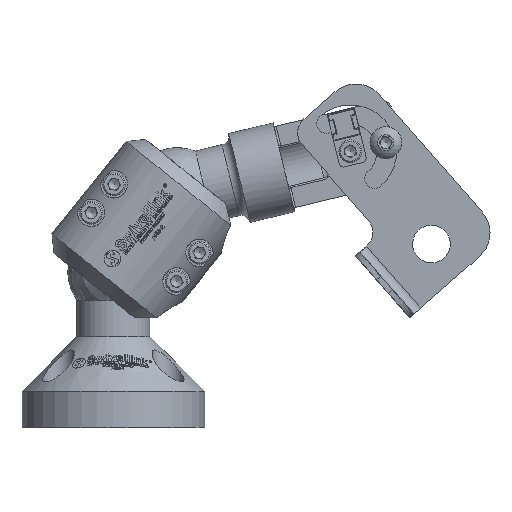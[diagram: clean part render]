
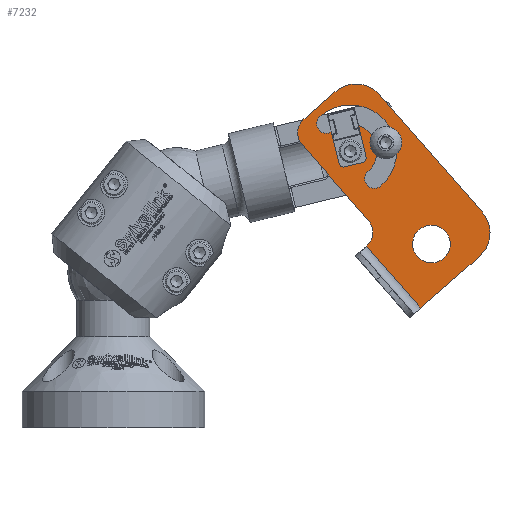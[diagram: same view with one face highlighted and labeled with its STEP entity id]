
A CAD part, front view. The second image highlights one B-rep face of the part: STEP entity #7232.
In plain terms, the highlighted planar face has unit normal (0, -1, 0).
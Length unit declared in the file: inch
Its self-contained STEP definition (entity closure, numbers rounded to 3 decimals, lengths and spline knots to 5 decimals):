
#247 = LINE ( 'NONE', #4669, #29322 ) ;
#412 = DIRECTION ( 'NONE',  ( 1., 0., 0. ) ) ;
#1035 = AXIS2_PLACEMENT_3D ( 'NONE', #45776, #28016, #36355 ) ;
#1137 = VERTEX_POINT ( 'NONE', #54085 ) ;
#1555 = EDGE_CURVE ( 'NONE', #3023, #53710, #51739, .T. ) ;
#1736 = CARTESIAN_POINT ( 'NONE',  ( 0., -0.0747, -1.0625 ) ) ;
#1989 = EDGE_CURVE ( 'NONE', #28999, #13340, #37203, .T. ) ;
#3023 = VERTEX_POINT ( 'NONE', #6251 ) ;
#3126 = AXIS2_PLACEMENT_3D ( 'NONE', #20386, #37058, #16759 ) ;
#3427 = AXIS2_PLACEMENT_3D ( 'NONE', #30501, #9106, #4394 ) ;
#3535 = DIRECTION ( 'NONE',  ( 0., -1., 0. ) ) ;
#3604 = EDGE_CURVE ( 'NONE', #47286, #11667, #24968, .T. ) ;
#3980 = AXIS2_PLACEMENT_3D ( 'NONE', #28857, #19711, #41642 ) ;
#4394 = DIRECTION ( 'NONE',  ( 0., 0., -1. ) ) ;
#4669 = CARTESIAN_POINT ( 'NONE',  ( 3., -0.0747, 0. ) ) ;
#5817 = CIRCLE ( 'NONE', #49305, 0.14063 ) ;
#6251 = CARTESIAN_POINT ( 'NONE',  ( 2.5625, -0.0747, -1.5 ) ) ;
#6609 = FACE_BOUND ( 'NONE', #30443, .T. ) ;
#7232 = ADVANCED_FACE ( 'NONE', ( #20233, #53596, #6609, #11615 ), #28832, .T. ) ;
#7633 = VECTOR ( 'NONE', #37227, 39.37008 ) ;
#8325 = CIRCLE ( 'NONE', #8371, 0.367 ) ;
#8371 = AXIS2_PLACEMENT_3D ( 'NONE', #13968, #17307, #34808 ) ;
#8832 = ORIENTED_EDGE ( 'NONE', *, *, #13481, .T. ) ;
#9106 = DIRECTION ( 'NONE',  ( 0., -1., 0. ) ) ;
#9329 = ORIENTED_EDGE ( 'NONE', *, *, #46815, .F. ) ;
#9371 = CARTESIAN_POINT ( 'NONE',  ( 0.5625, -0.0747, -0.94532 ) ) ;
#9482 = CIRCLE ( 'NONE', #13034, 0.25 ) ;
#10332 = DIRECTION ( 'NONE',  ( 0., -1., 0. ) ) ;
#11172 = CARTESIAN_POINT ( 'NONE',  ( 2.25, -0.0747, -0.6875 ) ) ;
#11615 = FACE_BOUND ( 'NONE', #44402, .T. ) ;
#11667 = VERTEX_POINT ( 'NONE', #29963 ) ;
#11922 = DIRECTION ( 'NONE',  ( 0., 0., -1. ) ) ;
#12549 = CARTESIAN_POINT ( 'NONE',  ( 1.883, -0.0747, -0.6875 ) ) ;
#12942 = CARTESIAN_POINT ( 'NONE',  ( 2.617, -0.0747, -0.6875 ) ) ;
#13030 = CARTESIAN_POINT ( 'NONE',  ( 2.25, -0.0747, -0.6875 ) ) ;
#13034 = AXIS2_PLACEMENT_3D ( 'NONE', #16108, #20541, #11922 ) ;
#13075 = CIRCLE ( 'NONE', #54770, 0.25 ) ;
#13340 = VERTEX_POINT ( 'NONE', #54819 ) ;
#13481 = EDGE_CURVE ( 'NONE', #3023, #25122, #38530, .T. ) ;
#13968 = CARTESIAN_POINT ( 'NONE',  ( 2.25, -0.0747, -0.6875 ) ) ;
#14259 = ORIENTED_EDGE ( 'NONE', *, *, #1555, .F. ) ;
#14292 = ORIENTED_EDGE ( 'NONE', *, *, #30463, .F. ) ;
#14310 = EDGE_CURVE ( 'NONE', #13340, #26052, #24396, .T. ) ;
#14517 = VERTEX_POINT ( 'NONE', #1736 ) ;
#14591 = CARTESIAN_POINT ( 'NONE',  ( 0., -0.0747, 0. ) ) ;
#14938 = EDGE_CURVE ( 'NONE', #14517, #53710, #23488, .T. ) ;
#15057 = ORIENTED_EDGE ( 'NONE', *, *, #3604, .F. ) ;
#15169 = CARTESIAN_POINT ( 'NONE',  ( 0., -0.0747, 0. ) ) ;
#15968 = ORIENTED_EDGE ( 'NONE', *, *, #33538, .F. ) ;
#16108 = CARTESIAN_POINT ( 'NONE',  ( 1.375, -0.0747, 0. ) ) ;
#16144 = EDGE_CURVE ( 'NONE', #26052, #21035, #8325, .T. ) ;
#16759 = DIRECTION ( 'NONE',  ( 0., 0., -1. ) ) ;
#17307 = DIRECTION ( 'NONE',  ( 0., 1., 0. ) ) ;
#17852 = CARTESIAN_POINT ( 'NONE',  ( 2.5625, -0.0747, -1.0625 ) ) ;
#18028 = CARTESIAN_POINT ( 'NONE',  ( 2.75, -0.0747, -0.25 ) ) ;
#19711 = DIRECTION ( 'NONE',  ( 0., -1., 0. ) ) ;
#19922 = DIRECTION ( 'NONE',  ( 0., 0., -1. ) ) ;
#20233 = FACE_OUTER_BOUND ( 'NONE', #32603, .T. ) ;
#20386 = CARTESIAN_POINT ( 'NONE',  ( 2.75, -0.0747, -0.6875 ) ) ;
#20541 = DIRECTION ( 'NONE',  ( 0., 1., 0. ) ) ;
#21035 = VERTEX_POINT ( 'NONE', #12549 ) ;
#22162 = EDGE_CURVE ( 'NONE', #31102, #22738, #25106, .T. ) ;
#22726 = EDGE_CURVE ( 'NONE', #21035, #28999, #34359, .T. ) ;
#22738 = VERTEX_POINT ( 'NONE', #18028 ) ;
#23488 = CIRCLE ( 'NONE', #3980, 0.4375 ) ;
#23730 = CARTESIAN_POINT ( 'NONE',  ( 3., -0.0747, -1.0625 ) ) ;
#23806 = CIRCLE ( 'NONE', #3427, 0.25781 ) ;
#24111 = CARTESIAN_POINT ( 'NONE',  ( 0.4375, -0.0747, -1.5 ) ) ;
#24354 = CARTESIAN_POINT ( 'NONE',  ( 2.75, -0.0747, -0.5 ) ) ;
#24396 = CIRCLE ( 'NONE', #3126, 0.133 ) ;
#24516 = EDGE_CURVE ( 'NONE', #34923, #34923, #23806, .T. ) ;
#24570 = CARTESIAN_POINT ( 'NONE',  ( 1.125, -0.0747, -0.25 ) ) ;
#24968 = LINE ( 'NONE', #33319, #7633 ) ;
#25106 = LINE ( 'NONE', #24570, #48533 ) ;
#25122 = VERTEX_POINT ( 'NONE', #23730 ) ;
#25222 = CARTESIAN_POINT ( 'NONE',  ( 1.617, -0.0747, -0.6875 ) ) ;
#25491 = AXIS2_PLACEMENT_3D ( 'NONE', #26897, #48596, #39957 ) ;
#26052 = VERTEX_POINT ( 'NONE', #12942 ) ;
#26897 = CARTESIAN_POINT ( 'NONE',  ( 1.75, -0.0747, -0.6875 ) ) ;
#27268 = DIRECTION ( 'NONE',  ( 0., 0., -1. ) ) ;
#27664 = LINE ( 'NONE', #15169, #42063 ) ;
#28016 = DIRECTION ( 'NONE',  ( 0., -1., 0. ) ) ;
#28201 = ORIENTED_EDGE ( 'NONE', *, *, #36499, .T. ) ;
#28307 = AXIS2_PLACEMENT_3D ( 'NONE', #11172, #36726, #32553 ) ;
#28369 = EDGE_LOOP ( 'NONE', ( #40105, #54696, #49393, #28542 ) ) ;
#28542 = ORIENTED_EDGE ( 'NONE', *, *, #14310, .F. ) ;
#28832 = PLANE ( 'NONE',  #1035 ) ;
#28857 = CARTESIAN_POINT ( 'NONE',  ( 0.4375, -0.0747, -1.0625 ) ) ;
#28999 = VERTEX_POINT ( 'NONE', #25222 ) ;
#29233 = CARTESIAN_POINT ( 'NONE',  ( 0., -0.0747, -1.5 ) ) ;
#29322 = VECTOR ( 'NONE', #30510, 39.37008 ) ;
#29963 = CARTESIAN_POINT ( 'NONE',  ( 1.125, -0.0747, 0. ) ) ;
#29983 = DIRECTION ( 'NONE',  ( 0., -1., 0. ) ) ;
#30443 = EDGE_LOOP ( 'NONE', ( #15968 ) ) ;
#30463 = EDGE_CURVE ( 'NONE', #14517, #47286, #27664, .T. ) ;
#30483 = CARTESIAN_POINT ( 'NONE',  ( 2.25, -0.0747, -0.82813 ) ) ;
#30501 = CARTESIAN_POINT ( 'NONE',  ( 0.5625, -0.0747, -0.6875 ) ) ;
#30510 = DIRECTION ( 'NONE',  ( 0., 0., -1. ) ) ;
#30544 = CARTESIAN_POINT ( 'NONE',  ( 1.375, -0.0747, -0.25 ) ) ;
#31102 = VERTEX_POINT ( 'NONE', #30544 ) ;
#32445 = ORIENTED_EDGE ( 'NONE', *, *, #36193, .T. ) ;
#32553 = DIRECTION ( 'NONE',  ( 0., 0., -1. ) ) ;
#32603 = EDGE_LOOP ( 'NONE', ( #14292, #34307, #14259, #8832, #9329, #28201, #51180, #32445, #15057 ) ) ;
#33319 = CARTESIAN_POINT ( 'NONE',  ( 0., -0.0747, 0. ) ) ;
#33538 = EDGE_CURVE ( 'NONE', #43803, #43803, #5817, .T. ) ;
#34307 = ORIENTED_EDGE ( 'NONE', *, *, #14938, .T. ) ;
#34359 = CIRCLE ( 'NONE', #25491, 0.133 ) ;
#34808 = DIRECTION ( 'NONE',  ( 0., 0., -1. ) ) ;
#34923 = VERTEX_POINT ( 'NONE', #9371 ) ;
#36193 = EDGE_CURVE ( 'NONE', #31102, #11667, #9482, .T. ) ;
#36355 = DIRECTION ( 'NONE',  ( 0., 0., -1. ) ) ;
#36499 = EDGE_CURVE ( 'NONE', #1137, #22738, #13075, .T. ) ;
#36726 = DIRECTION ( 'NONE',  ( 0., -1., 0. ) ) ;
#37058 = DIRECTION ( 'NONE',  ( 0., -1., 0. ) ) ;
#37203 = CIRCLE ( 'NONE', #28307, 0.633 ) ;
#37227 = DIRECTION ( 'NONE',  ( 1., 0., 0. ) ) ;
#38530 = CIRCLE ( 'NONE', #43876, 0.4375 ) ;
#39957 = DIRECTION ( 'NONE',  ( 0., 0., -1. ) ) ;
#40105 = ORIENTED_EDGE ( 'NONE', *, *, #1989, .F. ) ;
#41642 = DIRECTION ( 'NONE',  ( 0., 0., -1. ) ) ;
#42063 = VECTOR ( 'NONE', #44057, 39.37008 ) ;
#43803 = VERTEX_POINT ( 'NONE', #30483 ) ;
#43876 = AXIS2_PLACEMENT_3D ( 'NONE', #17852, #10332, #27268 ) ;
#44057 = DIRECTION ( 'NONE',  ( 0., 0., 1. ) ) ;
#44402 = EDGE_LOOP ( 'NONE', ( #47241 ) ) ;
#45776 = CARTESIAN_POINT ( 'NONE',  ( 0., -0.0747, 0. ) ) ;
#46448 = DIRECTION ( 'NONE',  ( -1., 0., 0. ) ) ;
#46815 = EDGE_CURVE ( 'NONE', #1137, #25122, #247, .T. ) ;
#46933 = DIRECTION ( 'NONE',  ( 0., 0., -1. ) ) ;
#47241 = ORIENTED_EDGE ( 'NONE', *, *, #24516, .F. ) ;
#47286 = VERTEX_POINT ( 'NONE', #14591 ) ;
#48533 = VECTOR ( 'NONE', #412, 39.37008 ) ;
#48596 = DIRECTION ( 'NONE',  ( 0., -1., 0. ) ) ;
#49305 = AXIS2_PLACEMENT_3D ( 'NONE', #13030, #29983, #46933 ) ;
#49393 = ORIENTED_EDGE ( 'NONE', *, *, #16144, .F. ) ;
#51180 = ORIENTED_EDGE ( 'NONE', *, *, #22162, .F. ) ;
#51739 = LINE ( 'NONE', #29233, #53709 ) ;
#53596 = FACE_BOUND ( 'NONE', #28369, .T. ) ;
#53709 = VECTOR ( 'NONE', #46448, 39.37008 ) ;
#53710 = VERTEX_POINT ( 'NONE', #24111 ) ;
#54085 = CARTESIAN_POINT ( 'NONE',  ( 3., -0.0747, -0.5 ) ) ;
#54696 = ORIENTED_EDGE ( 'NONE', *, *, #22726, .F. ) ;
#54770 = AXIS2_PLACEMENT_3D ( 'NONE', #24354, #3535, #19922 ) ;
#54819 = CARTESIAN_POINT ( 'NONE',  ( 2.883, -0.0747, -0.6875 ) ) ;
